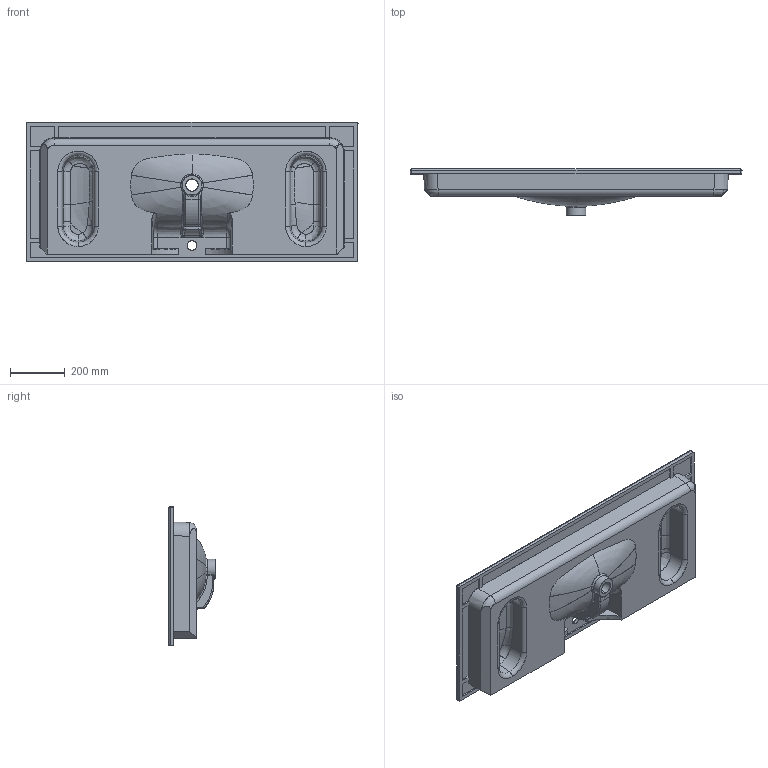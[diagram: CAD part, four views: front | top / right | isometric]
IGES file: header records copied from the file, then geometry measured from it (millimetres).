
Start section: SolidWorks IGES file using NURBS representation for surfaces
Global section: file name: C:\Users\User\Desktop\Soft\lavabi definitivi soft 51 m\soft 1210 x 515\definitivo soft 1210 x 515 m .IGS; native system: SolidWorks 2016; preprocessor: SolidWorks 2016; author: User; date: 200629.161124; units: millimetre
Bounding box: 1210 x 168 x 510 mm (x, y, z)
Surface area: 1748001.4 mm2 (no closed solid volume)
Topology: 0 solids, 0 shells, 207 faces, 2937 edges, 2929 vertices
Faces by surface type: bspline 207
